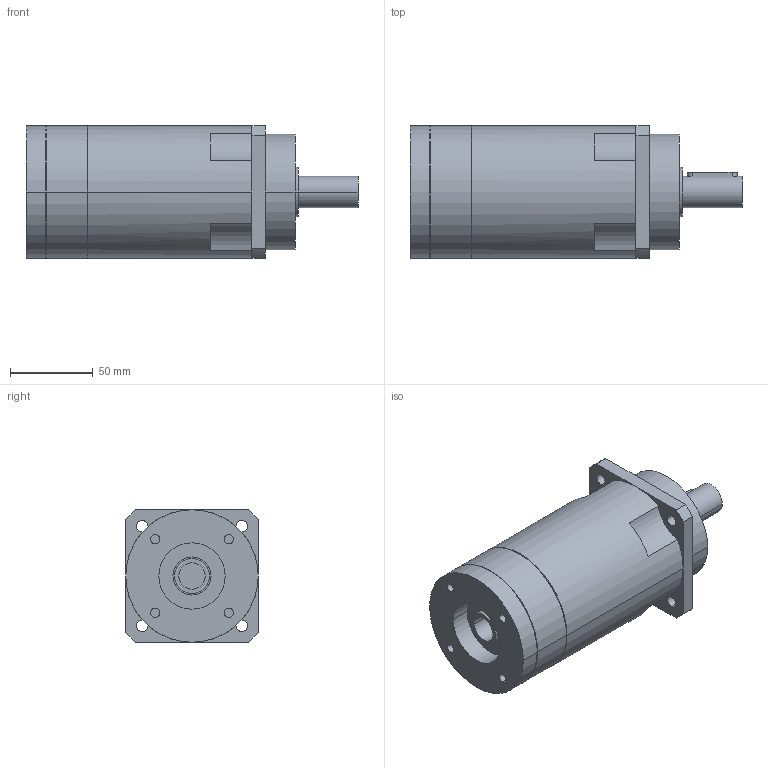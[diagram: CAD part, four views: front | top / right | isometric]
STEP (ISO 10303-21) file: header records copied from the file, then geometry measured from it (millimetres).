
FILE_DESCRIPTION(('CoCreate Modeling STEP Export'),'2;1');
FILE_NAME('GPR100_ig-48-64-80-100-120-144-180-216_19_B5_15.87_P17.stp','2014-08-26T11:55:43',(''),(''),'CoCreate Modeling STEP processor for AP214 (Solid Model)','CoCreate Modeling 16.00C 25-Feb-2009 (C) Parametric Technology GmbH','');
FILE_SCHEMA(('AUTOMOTIVE_DESIGN { 1 0 10303 214 1 1 1 1 }'));
Length unit declared in the file: millimetre
Products named in the file (2): GPR100_ig-48-64-80-100-120-144-180-216_19_B5_15.87_P17
Assembly tree (1 placements, depth 2):
  GPR100_ig-48-64-80-100-120-144-180-216_19_B5_15.87_P17
    GPR100_ig-48-64-80-100-120-144-180-216_19_B5_15.87_P17
Bounding box: 200.4 x 80 x 80 mm (x, y, z)
Volume: 785531.6 mm3; surface area: 62549.3 mm2
Topology: 1 solids, 1 shells, 96 faces, 248 edges, 170 vertices
Faces by surface type: cylinder 56, plane 34, cone 6
Entity records: 2599 total; most frequent: ORIENTED_EDGE 492, CARTESIAN_POINT 466, DIRECTION 376, EDGE_CURVE 246, VERTEX_POINT 170, AXIS2_PLACEMENT_3D 144, EDGE_LOOP 122, FACE_OUTER_BOUND 96
